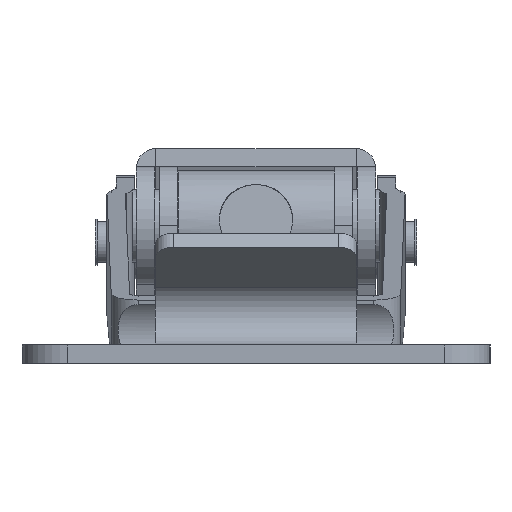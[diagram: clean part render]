
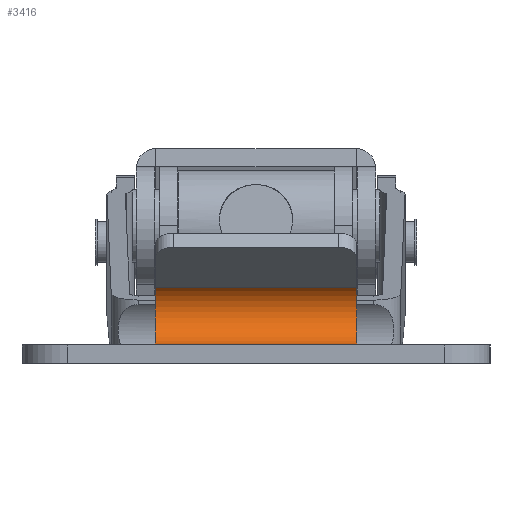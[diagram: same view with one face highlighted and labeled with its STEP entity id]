
A CAD part, left-side view. The second image highlights one B-rep face of the part: STEP entity #3416.
In plain terms, the highlighted cylindrical face has radius 3.556 mm (diameter 7.111 mm), a partial arc.
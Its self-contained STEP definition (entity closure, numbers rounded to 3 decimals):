
#238=CYLINDRICAL_SURFACE('',#3731,3.556);
#381=CIRCLE('',#3693,3.556);
#386=CIRCLE('',#3701,3.556);
#572=FACE_OUTER_BOUND('',#796,.T.);
#796=EDGE_LOOP('',(#2712,#2713,#2714,#2715));
#1024=LINE('',#5699,#1267);
#1051=LINE('',#5792,#1294);
#1267=VECTOR('',#4367,22.);
#1294=VECTOR('',#4464,22.);
#1549=VERTEX_POINT('',#5679);
#1550=VERTEX_POINT('',#5681);
#1557=VERTEX_POINT('',#5697);
#1564=VERTEX_POINT('',#5715);
#1950=EDGE_CURVE('',#1549,#1550,#381,.T.);
#1959=EDGE_CURVE('',#1557,#1549,#1024,.T.);
#1968=EDGE_CURVE('',#1564,#1557,#386,.T.);
#2005=EDGE_CURVE('',#1564,#1550,#1051,.T.);
#2712=ORIENTED_EDGE('',*,*,#1950,.F.);
#2713=ORIENTED_EDGE('',*,*,#1959,.F.);
#2714=ORIENTED_EDGE('',*,*,#1968,.F.);
#2715=ORIENTED_EDGE('',*,*,#2005,.T.);
#3416=ADVANCED_FACE('',(#572),#238,.F.);
#3693=AXIS2_PLACEMENT_3D('',#5682,#4353,#4354);
#3701=AXIS2_PLACEMENT_3D('',#5717,#4382,#4383);
#3731=AXIS2_PLACEMENT_3D('',#5791,#4462,#4463);
#4353=DIRECTION('center_axis',(0.,0.,-1.));
#4354=DIRECTION('ref_axis',(0.,1.,0.));
#4367=DIRECTION('',(0.,0.,1.));
#4382=DIRECTION('center_axis',(0.,0.,
1.));
#4383=DIRECTION('ref_axis',(0.,1.,0.));
#4462=DIRECTION('center_axis',(0.,0.,1.));
#4463=DIRECTION('ref_axis',(0.,1.,0.));
#4464=DIRECTION('',(0.,0.,1.));
#5679=CARTESIAN_POINT('',(-3.27,8.28,11.));
#5681=CARTESIAN_POINT('',(-5.556,2.,11.));
#5682=CARTESIAN_POINT('Origin',(-5.556,5.556,11.));
#5697=CARTESIAN_POINT('',(-3.27,8.28,-11.));
#5699=CARTESIAN_POINT('',(-3.27,8.28,0.));
#5715=CARTESIAN_POINT('',(-5.556,2.,-11.));
#5717=CARTESIAN_POINT('Origin',(-5.556,5.556,-11.));
#5791=CARTESIAN_POINT('Origin',(-5.556,5.556,0.));
#5792=CARTESIAN_POINT('',(-5.556,2.,0.));
